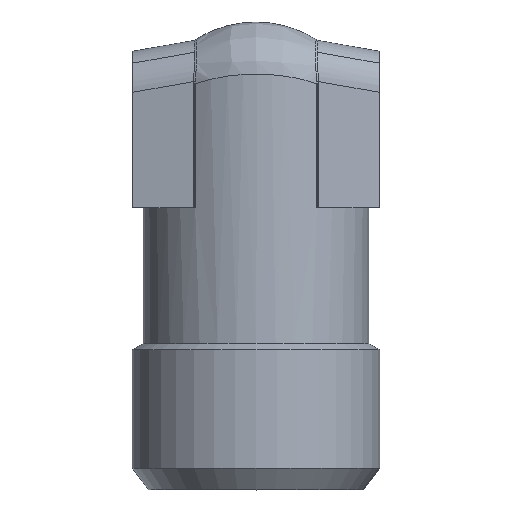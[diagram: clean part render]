
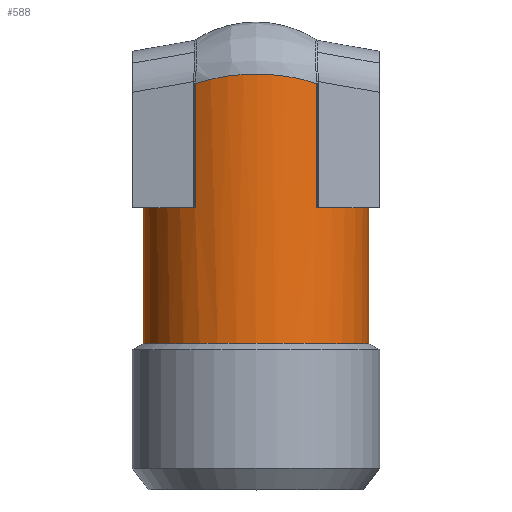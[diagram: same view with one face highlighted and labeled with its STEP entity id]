
A CAD part, top view. The second image highlights one B-rep face of the part: STEP entity #588.
In plain terms, the highlighted cylindrical face has radius 5.4 mm (diameter 10.8 mm), a partial arc.
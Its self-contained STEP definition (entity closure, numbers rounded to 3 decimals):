
#513=CARTESIAN_POINT('',(0.0,0.0,0.0));
#514=DIRECTION('',(0.0,1.0,0.0));
#515=DIRECTION('',(-1.0,0.0,0.0));
#516=AXIS2_PLACEMENT_3D('',#513,#514,#515);
#517=CYLINDRICAL_SURFACE('',#516,5.4);
#518=CARTESIAN_POINT('',(-5.4,-10.0,0.));
#519=VERTEX_POINT('',#518);
#520=CARTESIAN_POINT('',(-5.4,-3.5,0.));
#521=VERTEX_POINT('',#520);
#522=CARTESIAN_POINT('',(-5.4,-10.0,0.));
#523=DIRECTION('',(0.0,1.0,0.0));
#524=VECTOR('',#523,6.5);
#525=LINE('',#522,#524);
#526=EDGE_CURVE('',#519,#521,#525,.T.);
#527=ORIENTED_EDGE('',*,*,#526,.F.);
#528=CARTESIAN_POINT('',(5.4,-10.0,0.));
#529=VERTEX_POINT('',#528);
#530=CARTESIAN_POINT('',(0.0,-10.0,0.));
#531=DIRECTION('',(0.0,1.0,0.0));
#532=DIRECTION('',(1.0,0.0,0.0));
#533=AXIS2_PLACEMENT_3D('',#530,#531,#532);
#534=CIRCLE('',#533,5.4);
#535=EDGE_CURVE('',#519,#529,#534,.T.);
#536=ORIENTED_EDGE('',*,*,#535,.T.);
#537=CARTESIAN_POINT('',(5.4,-3.5,0.));
#538=VERTEX_POINT('',#537);
#539=CARTESIAN_POINT('',(5.4,-3.5,0.));
#540=DIRECTION('',(0.0,-1.0,0.0));
#541=VECTOR('',#540,6.5);
#542=LINE('',#539,#541);
#543=EDGE_CURVE('',#538,#529,#542,.T.);
#544=ORIENTED_EDGE('',*,*,#543,.F.);
#545=CARTESIAN_POINT('',(2.914,-3.5,4.546));
#546=VERTEX_POINT('',#545);
#547=CARTESIAN_POINT('',(0.0,-3.5,0.0));
#548=DIRECTION('',(0.0,-1.0,0.0));
#549=DIRECTION('',(-1.0,0.0,0.0));
#550=AXIS2_PLACEMENT_3D('',#547,#548,#549);
#551=CIRCLE('',#550,5.4);
#552=EDGE_CURVE('',#538,#546,#551,.T.);
#553=ORIENTED_EDGE('',*,*,#552,.T.);
#554=CARTESIAN_POINT('',(2.914,2.441,4.546));
#555=VERTEX_POINT('',#554);
#556=CARTESIAN_POINT('',(2.914,2.441,4.546));
#557=DIRECTION('',(0.0,-1.0,0.0));
#558=VECTOR('',#557,5.941);
#559=LINE('',#556,#558);
#560=EDGE_CURVE('',#555,#546,#559,.T.);
#561=ORIENTED_EDGE('',*,*,#560,.F.);
#562=CARTESIAN_POINT('',(-2.914,2.441,4.546));
#563=VERTEX_POINT('',#562);
#564=CARTESIAN_POINT('',(0.0,0.0,0.0));
#565=DIRECTION('',(0.0,0.881,-0.473));
#566=DIRECTION('',(0.0,0.473,0.881));
#567=AXIS2_PLACEMENT_3D('',#564,#565,#566);
#568=ELLIPSE('',#567,6.129,5.4);
#569=EDGE_CURVE('',#563,#555,#568,.T.);
#570=ORIENTED_EDGE('',*,*,#569,.F.);
#571=CARTESIAN_POINT('',(-2.914,-3.5,4.546));
#572=VERTEX_POINT('',#571);
#573=CARTESIAN_POINT('',(-2.914,-3.5,4.546));
#574=DIRECTION('',(0.0,1.0,0.0));
#575=VECTOR('',#574,5.941);
#576=LINE('',#573,#575);
#577=EDGE_CURVE('',#572,#563,#576,.T.);
#578=ORIENTED_EDGE('',*,*,#577,.F.);
#579=CARTESIAN_POINT('',(0.0,-3.5,0.0));
#580=DIRECTION('',(0.0,-1.0,0.0));
#581=DIRECTION('',(-1.0,0.0,0.0));
#582=AXIS2_PLACEMENT_3D('',#579,#580,#581);
#583=CIRCLE('',#582,5.4);
#584=EDGE_CURVE('',#572,#521,#583,.T.);
#585=ORIENTED_EDGE('',*,*,#584,.T.);
#586=EDGE_LOOP('',(#527,#536,#544,#553,#561,#570,#578,#585));
#587=FACE_OUTER_BOUND('',#586,.T.);
#588=ADVANCED_FACE('',(#587),#517,.T.);
